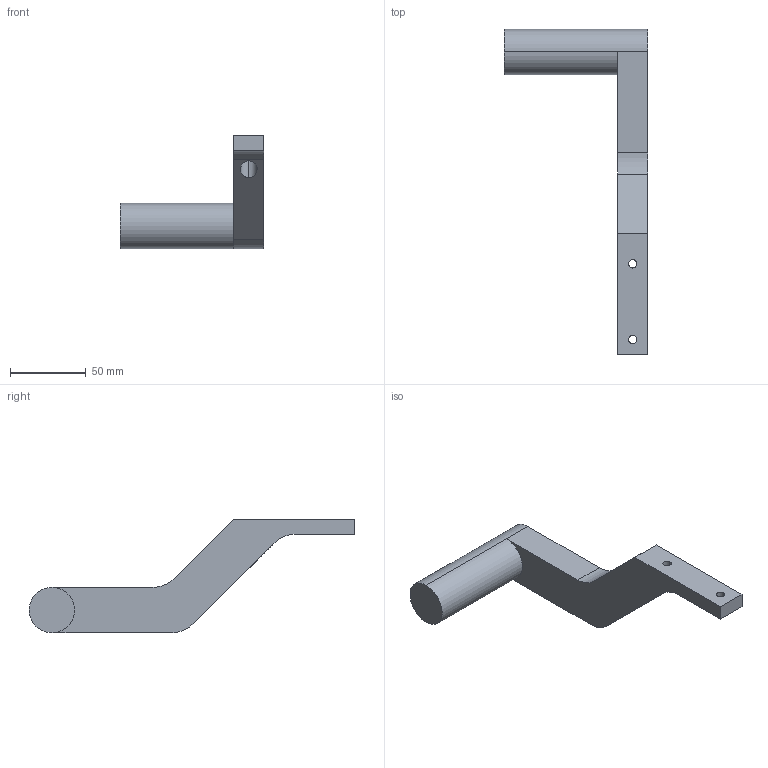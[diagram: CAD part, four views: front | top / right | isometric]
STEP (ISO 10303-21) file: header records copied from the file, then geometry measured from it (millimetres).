
FILE_DESCRIPTION (( 'STEP AP203' ), '1' );
FILE_NAME ('【STEP】KeiganConveyor　ALI検知用Lider pole.STEP', '2026-02-09T09:26:00', ( '' ), ( '' ), 'SwSTEP 2.0', 'SolidWorks 2024', '' );
FILE_SCHEMA (( 'CONFIG_CONTROL_DESIGN' ));
Length unit declared in the file: millimetre
Products named in the file (1): 【STEP】KeiganConveyor　ALI検知用Lider pole
Bounding box: 95 x 215 x 75 mm (x, y, z)
Volume: 166753.2 mm3; surface area: 29250.8 mm2
Topology: 1 solids, 1 shells, 22 faces, 55 edges, 36 vertices
Faces by surface type: cylinder 11, plane 11
Entity records: 748 total; most frequent: CARTESIAN_POINT 120, DIRECTION 119, ORIENTED_EDGE 110, EDGE_CURVE 55, AXIS2_PLACEMENT_3D 43, VERTEX_POINT 36, VECTOR 33, LINE 33
